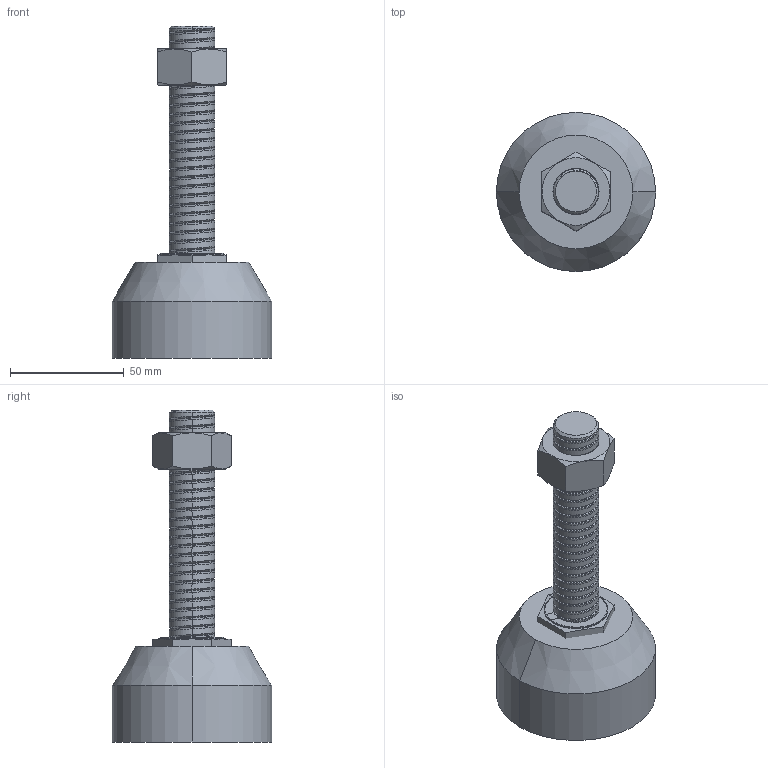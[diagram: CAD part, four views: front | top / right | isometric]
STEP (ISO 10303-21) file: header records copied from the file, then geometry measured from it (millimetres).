
FILE_DESCRIPTION (( 'STEP AP203' ), '1' );
FILE_NAME ('F-101-3-20-L.STEP', '2015-11-23T03:06:33', ( '' ), ( '' ), 'SwSTEP 2.0', 'SolidWorks 2014', '' );
FILE_SCHEMA (( 'CONFIG_CONTROL_DESIGN' ));
Length unit declared in the file: millimetre
Products named in the file (4): DT-M20X100L-12調整螺絲-1; F-101-3-20-L; M20螺帽-1; 65圓腳座-46
Assembly tree (3 placements, depth 2):
  F-101-3-20-L
    DT-M20X100L-12調整螺絲-1
    M20螺帽-1
    65圓腳座-46
Bounding box: 70 x 70 x 146 mm (x, y, z)
Volume: 196880.1 mm3; surface area: 34678 mm2
Topology: 3 solids, 3 shells, 159 faces, 407 edges, 259 vertices
Faces by surface type: cylinder 76, cone 49, plane 24, bspline 10
Entity records: 13295 total; most frequent: CARTESIAN_POINT 9388, ORIENTED_EDGE 814, DIRECTION 678, EDGE_CURVE 407, AXIS2_PLACEMENT_3D 270, VERTEX_POINT 259, EDGE_LOOP 166, FACE_OUTER_BOUND 159
